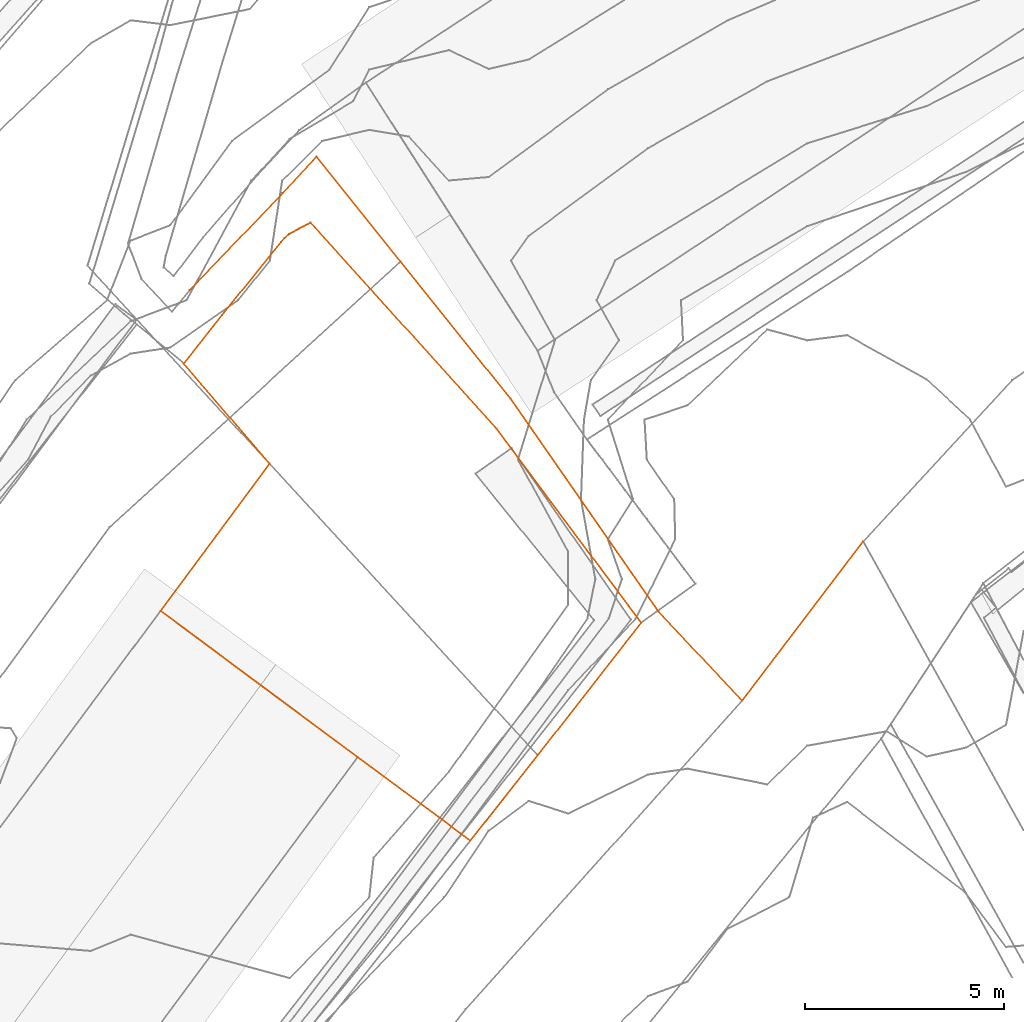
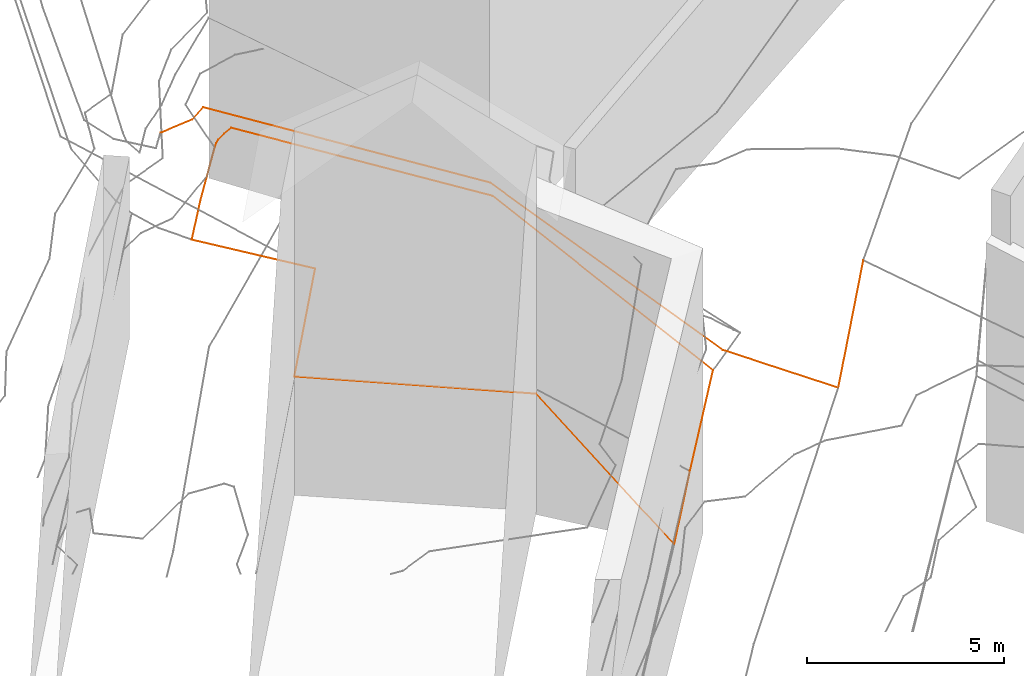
# Not in any storey, part 200 of 494: 5 proxies.
"""IFC2X3 model written with IfcOpenShell, lengths in metres."""

from ifc_helpers import new_model, entity, si_unit, frame, origin_with_axes, place, context, subcontext, project, element, save


model = new_model("IFC2X3")

# Units and contexts
model_context = context("Model", 3, precision=1e-05, world=origin_with_axes())
body_context = subcontext(model_context, "Body", "Model", "MODEL_VIEW")
ifc_project = project(units=[si_unit("AREAUNIT", "SQUARE_METRE"), si_unit("LENGTHUNIT", "METRE")], contexts=[model_context])

# Proxies
proxy_1_placement = place(None, frame((514.4667320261, 313.1437336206, 513.095), z_axis=(0.0, 0.0, 1.0), x_axis=(1.0, 0.0, 0.0)))
element("IfcBuildingElementProxy", 1, at=proxy_1_placement, Name="Road 42", ObjectType="NOTDEFINED", context=body_context, shape_type="GeometricCurveSet", body=[
    entity("IfcGeometricCurveSet", [entity("IfcPolyline", [entity("IfcCartesianPoint", [8.5789999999, -11.0319996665, -3.979]), entity("IfcCartesianPoint", [6.4820000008, -8.7929997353, -3.432]), entity("IfcCartesianPoint", [2.7650000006, -3.4489998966, -0.198]), entity("IfcCartesianPoint", [0.0, 0.0, 0.0])])]),
])
proxy_2_placement = place(None, frame((509.1687320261, 312.4247336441, 515.607), z_axis=(0.0, 0.0, 1.0), x_axis=(1.0, 0.0, 0.0)))
element("IfcBuildingElementProxy", 2, at=proxy_2_placement, Name="Road 43", ObjectType="NOTDEFINED", context=body_context, shape_type="GeometricCurveSet", body=[
    entity("IfcGeometricCurveSet", [entity("IfcPolyline", [entity("IfcCartesianPoint", [2.3370000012, 2.4399999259, -1.885]), entity("IfcCartesianPoint", [0.0, 0.0, 0.0])])]),
])
proxy_3_placement = place(None, frame((523.045732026, 302.1117339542, 509.116), z_axis=(0.0, 0.0, 1.0), x_axis=(1.0, 0.0, 0.0)))
element("IfcBuildingElementProxy", 3, at=proxy_3_placement, Name="Road 108", ObjectType="NOTDEFINED", context=body_context, shape_type="GeometricCurveSet", body=[
    entity("IfcGeometricCurveSet", [entity("IfcPolyline", [entity("IfcCartesianPoint", [0.0, 0.0, 0.0]), entity("IfcCartesianPoint", [3.0429999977, 4.0019998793, 0.448])])]),
])
proxy_4_placement = place(None, frame((511.5057320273, 314.86473357, 513.722), z_axis=(0.0, 0.0, 1.0), x_axis=(1.0, 0.0, 0.0)))
element("IfcBuildingElementProxy", 4, at=proxy_4_placement, Name="Road 200", ObjectType="NOTDEFINED", context=body_context, shape_type="GeometricCurveSet", body=[
    entity("IfcGeometricCurveSet", [entity("IfcPolyline", [entity("IfcCartesianPoint", [2.9609999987, -1.7209999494, -0.627]), entity("IfcCartesianPoint", [0.848999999, 0.9129999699, -0.475]), entity("IfcCartesianPoint", [0.0, 0.0, 0.0])])]),
])
proxy_5_placement = place(None, frame((508.4317320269, 304.3657160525, 513.2133843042), z_axis=(0.0, 0.0, 1.0), x_axis=(1.0, 0.0, 0.0)))
element("IfcBuildingElementProxy", 5, at=proxy_5_placement, Name="Roads Outline 84", ObjectType="NOTDEFINED", context=body_context, shape_type="GeometricCurveSet", body=[
    entity("IfcGeometricCurveSet", [entity("IfcPolyline", [entity("IfcCartesianPoint", [0.0, 0.0, 0.0]), entity("IfcCartesianPoint", [2.7439999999, 3.699, 0.1334090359]), entity("IfcCartesianPoint", [0.588, 6.2149999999, 0.2560545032]), entity("IfcCartesianPoint", [1.5439999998, 7.429, 0.4096982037]), entity("IfcCartesianPoint", [3.0260000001, 9.2649999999, 0.4269176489]), entity("IfcCartesianPoint", [3.125, 9.372, 0.4387132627]), entity("IfcCartesianPoint", [3.236, 9.4669999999, 0.4499890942]), entity("IfcCartesianPoint", [3.4899999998, 9.611, 0.4569741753]), entity("IfcCartesianPoint", [3.7790000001, 9.7560000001, 0.4538389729]), entity("IfcCartesianPoint", [8.4469999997, 4.5800000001, -0.1484547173]), entity("IfcCartesianPoint", [12.0789999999, -0.2960000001, -3.8594244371]), entity("IfcCartesianPoint", [9.48, -3.6259999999, -4.0482396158]), entity("IfcCartesianPoint", [7.784, -5.773, -4.4141425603]), entity("IfcCartesianPoint", [4.9559999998, -3.676, -0.0404777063]), entity("IfcCartesianPoint", [0.0, 0.0, 0.0])])]),
])

save(model, "model.ifc")
